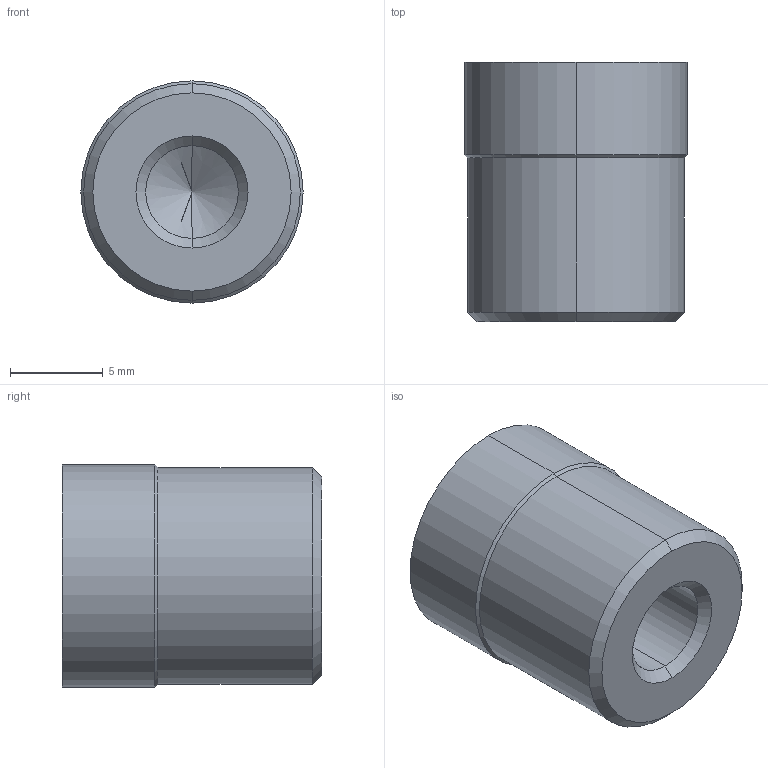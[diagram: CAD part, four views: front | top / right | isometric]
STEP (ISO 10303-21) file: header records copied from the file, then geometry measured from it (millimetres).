
FILE_DESCRIPTION (( 'STEP AP203' ), '1' );
FILE_NAME ('IR-12 PELD.STEP', '2017-09-11T11:56:54', ( 'Balzi' ), ( '' ), 'SwSTEP 2.0', 'SolidWorks 2017', '' );
FILE_SCHEMA (( 'CONFIG_CONTROL_DESIGN' ));
Length unit declared in the file: millimetre
Products named in the file (1): IR-12 PELD
Bounding box: 12 x 14 x 12 mm (x, y, z)
Volume: 1275.1 mm3; surface area: 942.5 mm2
Topology: 1 solids, 1 shells, 213 faces, 581 edges, 383 vertices
Faces by surface type: plane 185, cylinder 20, cone 8
Entity records: 6682 total; most frequent: CARTESIAN_POINT 1176, ORIENTED_EDGE 1158, DIRECTION 1051, EDGE_CURVE 579, LINE 535, VECTOR 535, VERTEX_POINT 383, AXIS2_PLACEMENT_3D 258
